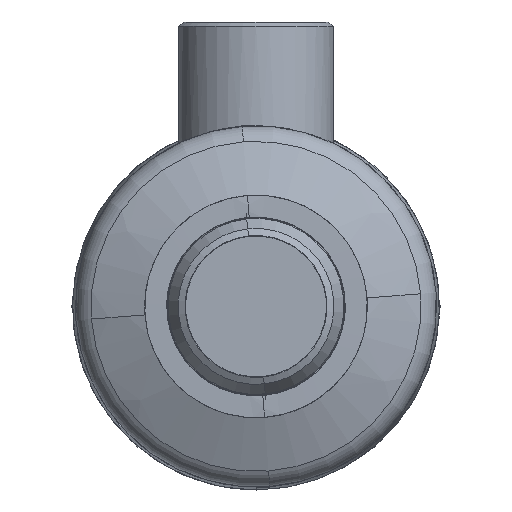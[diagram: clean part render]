
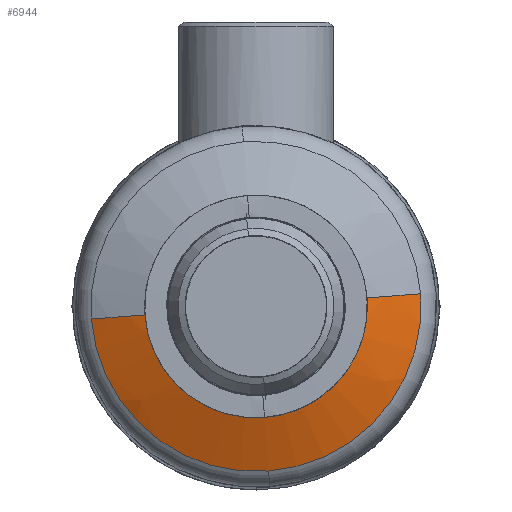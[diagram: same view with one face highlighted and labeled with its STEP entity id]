
A CAD part, front view. The second image highlights one B-rep face of the part: STEP entity #6944.
In plain terms, the highlighted spherical face has radius 145.7 mm.
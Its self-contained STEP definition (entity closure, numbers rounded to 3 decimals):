
#133 = CIRCLE ( 'NONE', #134, 63.85 ) ;
#134 = AXIS2_PLACEMENT_3D ( 'NONE', #135, #136, #137 ) ;
#135 = CARTESIAN_POINT ( 'NONE',  ( 0., 130.964, 0. ) ) ;
#136 = DIRECTION ( 'NONE',  ( 0., -1., 0. ) ) ;
#137 = DIRECTION ( 'NONE',  ( 0., 0., -1. ) ) ;
#237 = ORIENTED_EDGE ( 'NONE', *, *, #11370, .T. ) ;
#1086 = CARTESIAN_POINT ( 'NONE',  ( -63.85, 130.964, 0. ) ) ;
#1233 = EDGE_CURVE ( 'NONE', #6986, #3688, #8422, .T. ) ;
#1270 = VERTEX_POINT ( 'NONE', #8440 ) ;
#1654 = CIRCLE ( 'NONE', #1655, 145.7 ) ;
#1655 = AXIS2_PLACEMENT_3D ( 'NONE', #1656, #1657, #1658 ) ;
#1656 = CARTESIAN_POINT ( 'NONE',  ( 0., 0., 0. ) ) ;
#1657 = DIRECTION ( 'NONE',  ( 0., 0., 1. ) ) ;
#1658 = DIRECTION ( 'NONE',  ( 1., 0., 0. ) ) ;
#2315 = CARTESIAN_POINT ( 'NONE',  ( 0., 139.186, 43.08 ) ) ;
#2417 = CIRCLE ( 'NONE', #2418, 43.08 ) ;
#2418 = AXIS2_PLACEMENT_3D ( 'NONE', #2419, #2420, #2421 ) ;
#2419 = CARTESIAN_POINT ( 'NONE',  ( 0., 139.186, 0. ) ) ;
#2420 = DIRECTION ( 'NONE',  ( 0., -1., 0. ) ) ;
#2421 = DIRECTION ( 'NONE',  ( 0., 0., -1. ) ) ;
#3175 = ORIENTED_EDGE ( 'NONE', *, *, #1233, .F. ) ;
#3688 = VERTEX_POINT ( 'NONE', #11081 ) ;
#3905 = EDGE_CURVE ( 'NONE', #3688, #11144, #133, .T. ) ;
#4883 = CARTESIAN_POINT ( 'NONE',  ( 43.08, 139.186, 0. ) ) ;
#5106 = VERTEX_POINT ( 'NONE', #2315 ) ;
#5317 = EDGE_CURVE ( 'NONE', #5106, #1270, #2417, .T. ) ;
#6825 = EDGE_CURVE ( 'NONE', #9617, #5106, #8181, .T. ) ;
#6846 = ORIENTED_EDGE ( 'NONE', *, *, #6825, .T. ) ;
#6914 = EDGE_LOOP ( 'NONE', ( #6846, #9107, #237, #10807, #3175, #11182 ) ) ;
#6944 = ADVANCED_FACE ( 'NONE', ( #9228 ), #9229, .T. ) ;
#6974 = EDGE_CURVE ( 'NONE', #9617, #6986, #9451, .T. ) ;
#6986 = VERTEX_POINT ( 'NONE', #9505 ) ;
#8181 = CIRCLE ( 'NONE', #8182, 43.08 ) ;
#8182 = AXIS2_PLACEMENT_3D ( 'NONE', #8185, #8186, #8187 ) ;
#8185 = CARTESIAN_POINT ( 'NONE',  ( 0., 139.186, 0. ) ) ;
#8186 = DIRECTION ( 'NONE',  ( 0., -1., 0. ) ) ;
#8187 = DIRECTION ( 'NONE',  ( 0., 0., -1. ) ) ;
#8422 = CIRCLE ( 'NONE', #8423, 63.85 ) ;
#8423 = AXIS2_PLACEMENT_3D ( 'NONE', #8424, #8425, #8426 ) ;
#8424 = CARTESIAN_POINT ( 'NONE',  ( 0., 130.964, 0. ) ) ;
#8425 = DIRECTION ( 'NONE',  ( 0., -1., 0. ) ) ;
#8426 = DIRECTION ( 'NONE',  ( 0., 0., -1. ) ) ;
#8440 = CARTESIAN_POINT ( 'NONE',  ( -43.08, 139.186, 0. ) ) ;
#9107 = ORIENTED_EDGE ( 'NONE', *, *, #5317, .T. ) ;
#9228 = FACE_OUTER_BOUND ( 'NONE', #6914, .T. ) ;
#9229 = SPHERICAL_SURFACE ( 'NONE', #9230, 145.7 ) ;
#9230 = AXIS2_PLACEMENT_3D ( 'NONE', #9233, #9234, #9235 ) ;
#9233 = CARTESIAN_POINT ( 'NONE',  ( 0., 0., 0. ) ) ;
#9234 = DIRECTION ( 'NONE',  ( 0., 0., 1. ) ) ;
#9235 = DIRECTION ( 'NONE',  ( 1., 0., 0. ) ) ;
#9451 = CIRCLE ( 'NONE', #9452, 145.7 ) ;
#9452 = AXIS2_PLACEMENT_3D ( 'NONE', #9453, #9454, #9455 ) ;
#9453 = CARTESIAN_POINT ( 'NONE',  ( 0., 0., 0. ) ) ;
#9454 = DIRECTION ( 'NONE',  ( 0., 0., -1. ) ) ;
#9455 = DIRECTION ( 'NONE',  ( -1., 0., 0. ) ) ;
#9505 = CARTESIAN_POINT ( 'NONE',  ( 63.85, 130.964, 0. ) ) ;
#9617 = VERTEX_POINT ( 'NONE', #4883 ) ;
#10807 = ORIENTED_EDGE ( 'NONE', *, *, #3905, .F. ) ;
#11081 = CARTESIAN_POINT ( 'NONE',  ( 0., 130.964, 63.85 ) ) ;
#11144 = VERTEX_POINT ( 'NONE', #1086 ) ;
#11182 = ORIENTED_EDGE ( 'NONE', *, *, #6974, .F. ) ;
#11370 = EDGE_CURVE ( 'NONE', #1270, #11144, #1654, .T. ) ;
